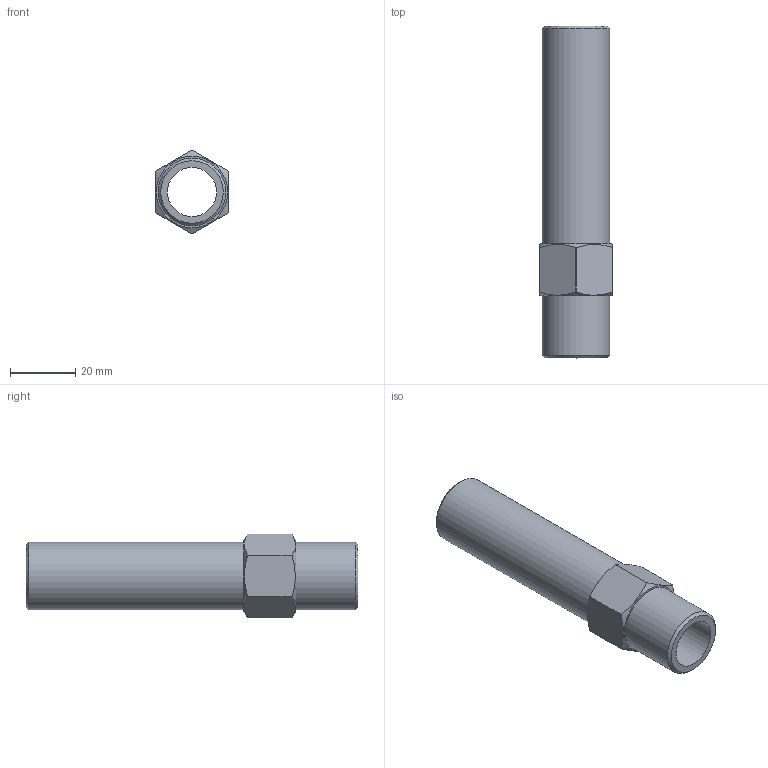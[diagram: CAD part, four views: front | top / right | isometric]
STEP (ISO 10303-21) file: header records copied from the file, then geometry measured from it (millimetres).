
FILE_DESCRIPTION(/* description */ (''),/* implementation_level */ '2;1');
FILE_NAME(/* name */ 'C:/Users/drich/Desktop/APN12-4 v1.step',/* time_stamp */ '2019-12-27T17:41:31-06:00',/* author */ (''),/* organization */ (''),/* preprocessor_version */ 'ST-DEVELOPER v18',/* originating_system */ 'Autodesk Translation Framework v8.12.0.6',/* authorisation */ '');
FILE_SCHEMA (('AUTOMOTIVE_DESIGN { 1 0 10303 214 3 1 1 }'));
Length unit declared in the file: inch
Products named in the file (1): APN12-4
Bounding box: 22.23 x 101.6 x 25.65 mm (x, y, z)
Volume: 17833.5 mm3; surface area: 12006.2 mm2
Topology: 1 solids, 1 shells, 23 faces, 59 edges, 40 vertices
Faces by surface type: plane 10, cylinder 9, cone 4
Full cylindrical faces by diameter (mm): 15.037 x1, 20.813 x2
Entity records: 751 total; most frequent: CARTESIAN_POINT 147, DIRECTION 123, ORIENTED_EDGE 118, EDGE_CURVE 59, AXIS2_PLACEMENT_3D 52, VERTEX_POINT 40, CIRCLE 28, EDGE_LOOP 27
